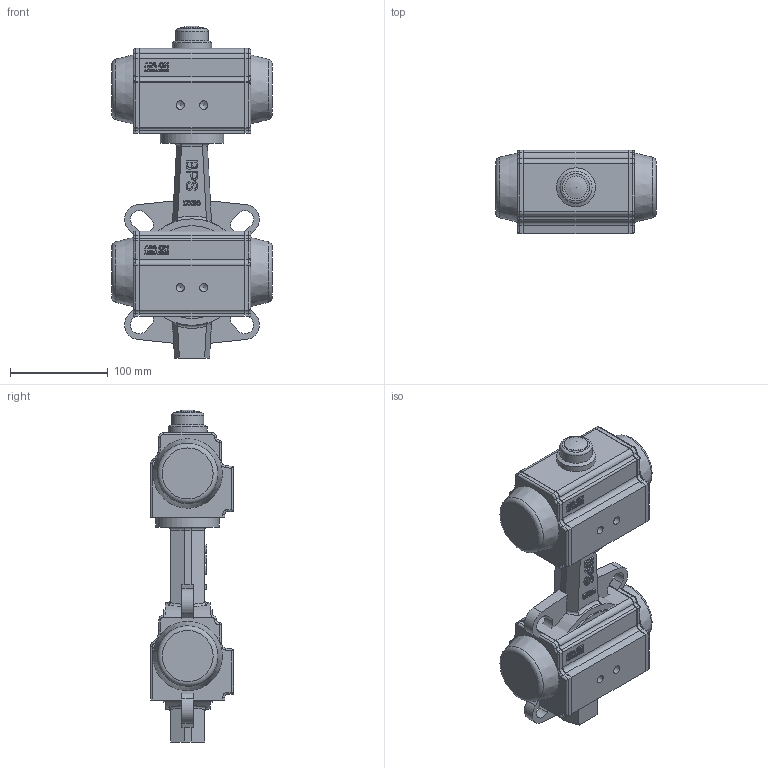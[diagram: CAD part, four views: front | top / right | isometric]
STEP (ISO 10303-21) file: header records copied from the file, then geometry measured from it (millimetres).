
FILE_DESCRIPTION( ( 'Unknown' ), '1' );
FILE_NAME( 'R:/ECCUA/ROOTSI BPS 3D vidinad/Poordklapid Wafer type/Butterfly valve(wafer) with pneumatic actuator BPS/STEP formaat/BPS 2303065P butterfly valve DN65.stp', 'Unknown', ( 'Unknown' ), ( 'Unknown' ), 'PSStep 10.1', 'Unknown', ' ' );
FILE_SCHEMA( ( 'AUTOMOTIVE_DESIGN { 1 0 10303 214 1 1 1 1 }' ) );
Length unit declared in the file: millimetre
Products named in the file (5): Assem1; Butterfly valve wafer type DN65 BPS; BPS 8300063DA-SR pneumatic actuator
Bounding box: 164 x 85 x 340 mm (x, y, z)
Volume: 2967977.2 mm3; surface area: 348411.2 mm2
Topology: 8 solids, 8 shells, 926 faces, 2366 edges, 1534 vertices
Faces by surface type: plane 306, extrusion 290, cylinder 196, torus 54, bspline 44, cone 30, sphere 6
Full cylindrical faces by diameter (mm): 4.917 x8, 6.647 x8, 7 x8, 8.566 x4, 23.5 x2, 33 x2, 40 x2, 65 x4, 95 x4, 109 x2
Entity records: 22058 total; most frequent: CARTESIAN_POINT 7750, ORIENTED_EDGE 2212, DIRECTION 1850, EDGE_CURVE 1106, VERTEX_POINT 749, VECTOR 718, LINE 573, EDGE_LOOP 571
